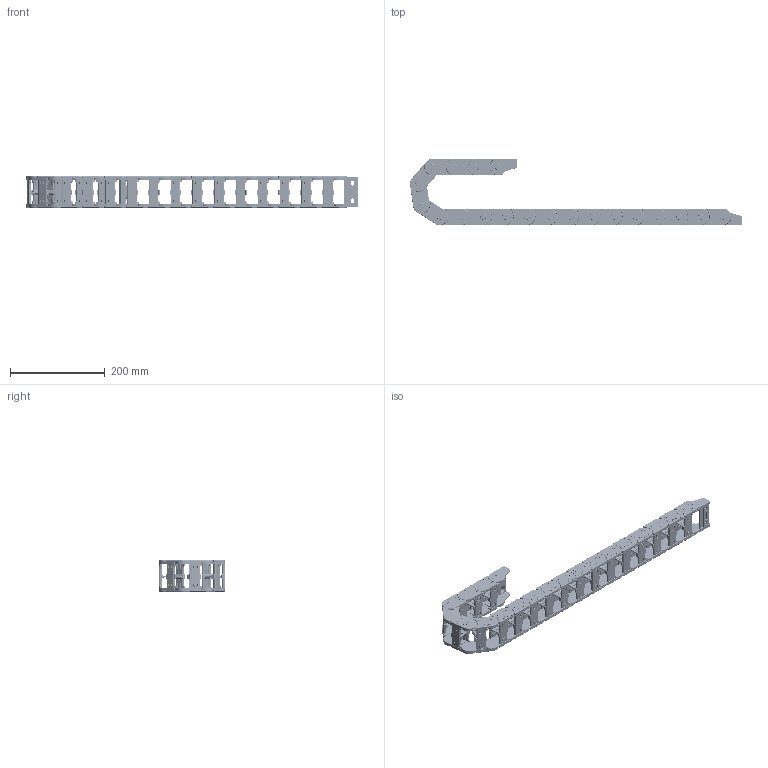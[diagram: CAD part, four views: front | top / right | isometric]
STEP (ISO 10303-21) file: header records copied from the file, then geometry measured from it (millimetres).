
FILE_DESCRIPTION (( 'STEP AP214' ), '1' );
FILE_NAME ('J25Q.2.50S-3D賦凳芞.STEP', '2019-01-09T03:25:02', ( 'Sky123.Org' ), ( 'Sky123.Org' ), 'SwSTEP 2.0', 'SolidWorks 2017', '' );
FILE_SCHEMA (( 'AUTOMOTIVE_DESIGN' ));
Length unit declared in the file: millimetre
Products named in the file (8): G25X50-XJT-NF; 5-G25X50R40-1; G25-煦路え; G25X50-結え-3D; G25-翋极2-楷俋; G25-翋极1-楷俋; J25Q.2.50S-3D賦凳芞; G25X50-XJT-WF
Assembly tree (26 placements, depth 3):
  J25Q.2.50S-3D賦凳芞
    5-G25X50R40-1  x19
      G25-翋极1-楷俋
      G25-翋极2-楷俋
      G25X50-結え-3D
      G25-煦路え
    G25X50-XJT-NF
    G25X50-XJT-WF
Bounding box: 701.35 x 140.13 x 66.6 mm (x, y, z)
Volume: 740772.3 mm3; surface area: 442895.3 mm2
Topology: 97 solids, 97 shells, 21612 faces, 57802 edges, 36884 vertices
Faces by surface type: plane 10304, cylinder 5265, bspline 4268, torus 1307, sphere 456, cone 12
Entity records: 38890 total; most frequent: CARTESIAN_POINT 13578, ORIENTED_EDGE 5372, DIRECTION 4955, EDGE_CURVE 2686, AXIS2_PLACEMENT_3D 1697, VERTEX_POINT 1694, LINE 1561, VECTOR 1561
